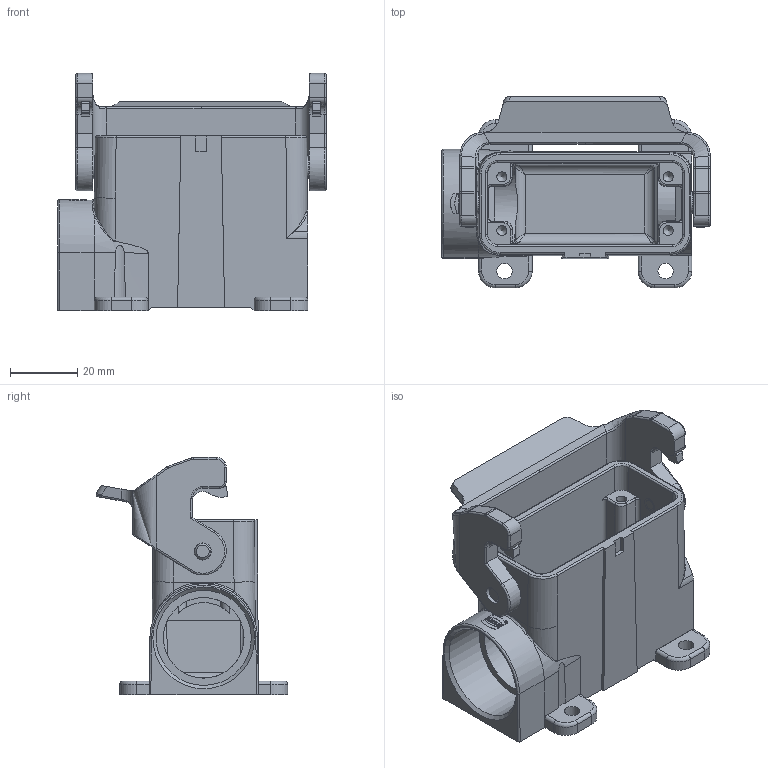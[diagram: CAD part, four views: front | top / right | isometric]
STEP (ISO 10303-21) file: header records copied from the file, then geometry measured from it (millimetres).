
FILE_DESCRIPTION(/* description */ (''),/* implementation_level */ '2;1');
FILE_NAME(/* name */ '100573791ugm000_b.stp',/* time_stamp */ '2022-03-11T19:58:51+01:00',/* author */ (''),/* organization */ (''),/* preprocessor_version */ 'ST-DEVELOPER v16.7',/* originating_system */ 'SIEMENS PLM Software NX 1911',/* authorisation */ '');
FILE_SCHEMA (('AUTOMOTIVE_DESIGN { 1 0 10303 214 3 1 1 1 }'));
Length unit declared in the file: millimetre
Products named in the file (1): 100573791ugm000_b
Bounding box: 79.9 x 56.98 x 70.6 mm (x, y, z)
Volume: 53893.2 mm3; surface area: 31152.6 mm2
Topology: 2 solids, 2 shells, 494 faces, 1264 edges, 786 vertices
Faces by surface type: cylinder 175, plane 165, bspline 134, torus 10, cone 10
Full cylindrical faces by diameter (mm): 0.66 x1, 3 x5, 4 x2, 4.6 x4, 4.8 x2, 5.1 x2, 6.6 x2, 24 x1, 26.9 x1, 28.3 x1
Entity records: 19832 total; most frequent: CARTESIAN_POINT 7206, ORIENTED_EDGE 2400, DIRECTION 1987, EDGE_CURVE 1200, VERTEX_POINT 767, AXIS2_PLACEMENT_3D 742, EDGE_LOOP 563, LINE 503
